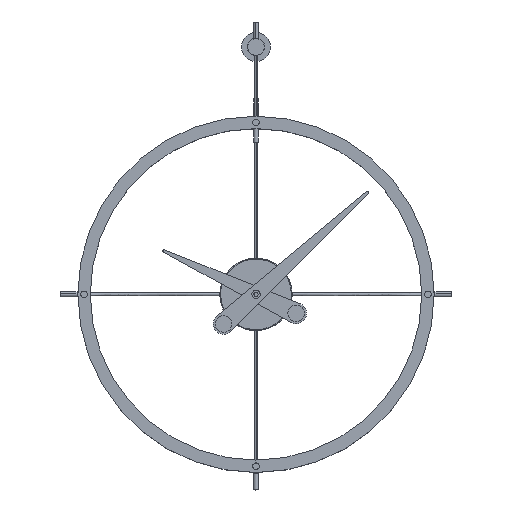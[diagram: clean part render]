
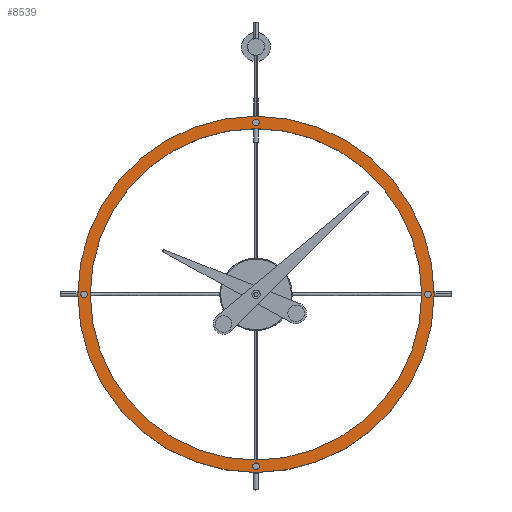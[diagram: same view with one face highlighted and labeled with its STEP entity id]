
A CAD part, top view. The second image highlights one B-rep face of the part: STEP entity #8539.
In plain terms, the highlighted planar face has unit normal (0, 0, 1).
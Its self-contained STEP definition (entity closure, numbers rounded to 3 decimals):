
#209 = EDGE_LOOP ( 'NONE', ( #840, #7336 ) ) ;
#403 = DIRECTION ( 'NONE',  ( 1., 0., 0. ) ) ;
#461 = ORIENTED_EDGE ( 'NONE', *, *, #9750, .F. ) ;
#583 = CARTESIAN_POINT ( 'NONE',  ( 209.5, 0., 0.6 ) ) ;
#596 = FACE_OUTER_BOUND ( 'NONE', #209, .T. ) ;
#754 = FACE_BOUND ( 'NONE', #3736, .T. ) ;
#840 = ORIENTED_EDGE ( 'NONE', *, *, #5532, .T. ) ;
#1252 = EDGE_CURVE ( 'NONE', #2732, #7615, #1564, .T. ) ;
#1347 = DIRECTION ( 'NONE',  ( 1., 0., 0. ) ) ;
#1367 = CARTESIAN_POINT ( 'NONE',  ( -215., 0., 0.6 ) ) ;
#1564 = CIRCLE ( 'NONE', #8371, 200. ) ;
#1570 = ORIENTED_EDGE ( 'NONE', *, *, #1252, .F. ) ;
#1580 = CIRCLE ( 'NONE', #10143, 200. ) ;
#1596 = DIRECTION ( 'NONE',  ( 0., 0., 1. ) ) ;
#1647 = EDGE_LOOP ( 'NONE', ( #10388, #5059 ) ) ;
#1700 = EDGE_CURVE ( 'NONE', #5785, #11051, #6710, .T. ) ;
#1723 = CARTESIAN_POINT ( 'NONE',  ( 205.5, 0., 0.6 ) ) ;
#1986 = DIRECTION ( 'NONE',  ( 0., 0., 1. ) ) ;
#2059 = ORIENTED_EDGE ( 'NONE', *, *, #3573, .F. ) ;
#2111 = ORIENTED_EDGE ( 'NONE', *, *, #1700, .F. ) ;
#2139 = DIRECTION ( 'NONE',  ( 1., 0., 0. ) ) ;
#2194 = AXIS2_PLACEMENT_3D ( 'NONE', #11082, #5706, #6485 ) ;
#2254 = CARTESIAN_POINT ( 'NONE',  ( 0., -207.5, 0.6 ) ) ;
#2277 = DIRECTION ( 'NONE',  ( 0., 0., 1. ) ) ;
#2347 = CARTESIAN_POINT ( 'NONE',  ( -209.5, 0., 0.6 ) ) ;
#2378 = EDGE_CURVE ( 'NONE', #5399, #11251, #9194, .T. ) ;
#2464 = AXIS2_PLACEMENT_3D ( 'NONE', #8672, #7036, #9568 ) ;
#2581 = FACE_BOUND ( 'NONE', #10379, .T. ) ;
#2663 = DIRECTION ( 'NONE',  ( 1., 0., 0. ) ) ;
#2666 = VERTEX_POINT ( 'NONE', #11102 ) ;
#2732 = VERTEX_POINT ( 'NONE', #9361 ) ;
#2961 = EDGE_CURVE ( 'NONE', #11051, #5785, #3343, .T. ) ;
#3114 = DIRECTION ( 'NONE',  ( 0., 0., 1. ) ) ;
#3254 = EDGE_LOOP ( 'NONE', ( #8472, #461 ) ) ;
#3343 = CIRCLE ( 'NONE', #6222, 2. ) ;
#3409 = CARTESIAN_POINT ( 'NONE',  ( 0., -207.5, 0.6 ) ) ;
#3550 = CARTESIAN_POINT ( 'NONE',  ( -205.5, 0., 0.6 ) ) ;
#3559 = AXIS2_PLACEMENT_3D ( 'NONE', #4502, #1986, #5411 ) ;
#3569 = ORIENTED_EDGE ( 'NONE', *, *, #6838, .F. ) ;
#3573 = EDGE_CURVE ( 'NONE', #2666, #5335, #7665, .T. ) ;
#3736 = EDGE_LOOP ( 'NONE', ( #1570, #6748 ) ) ;
#4026 = CIRCLE ( 'NONE', #3559, 215. ) ;
#4098 = FACE_BOUND ( 'NONE', #5382, .T. ) ;
#4137 = DIRECTION ( 'NONE',  ( 1., 0., 0. ) ) ;
#4502 = CARTESIAN_POINT ( 'NONE',  ( 0., 0., 0.6 ) ) ;
#4700 = CARTESIAN_POINT ( 'NONE',  ( 0., 0., 0.6 ) ) ;
#4769 = VERTEX_POINT ( 'NONE', #1723 ) ;
#4796 = CIRCLE ( 'NONE', #10762, 2. ) ;
#4805 = FACE_BOUND ( 'NONE', #3254, .T. ) ;
#4962 = DIRECTION ( 'NONE',  ( 0., 0., 1. ) ) ;
#4979 = DIRECTION ( 'NONE',  ( 0., 0., 1. ) ) ;
#5039 = CARTESIAN_POINT ( 'NONE',  ( 0., 0., 0.6 ) ) ;
#5059 = ORIENTED_EDGE ( 'NONE', *, *, #9179, .F. ) ;
#5184 = DIRECTION ( 'NONE',  ( 0., 0., 1. ) ) ;
#5335 = VERTEX_POINT ( 'NONE', #10544 ) ;
#5382 = EDGE_LOOP ( 'NONE', ( #2059, #3569 ) ) ;
#5399 = VERTEX_POINT ( 'NONE', #7899 ) ;
#5411 = DIRECTION ( 'NONE',  ( 1., 0., 0. ) ) ;
#5532 = EDGE_CURVE ( 'NONE', #11251, #5399, #4026, .T. ) ;
#5706 = DIRECTION ( 'NONE',  ( 0., 0., 1. ) ) ;
#5762 = CARTESIAN_POINT ( 'NONE',  ( 0., 207.5, 0.6 ) ) ;
#5785 = VERTEX_POINT ( 'NONE', #7709 ) ;
#6000 = DIRECTION ( 'NONE',  ( 1., 0., 0. ) ) ;
#6222 = AXIS2_PLACEMENT_3D ( 'NONE', #2254, #4979, #9352 ) ;
#6247 = CIRCLE ( 'NONE', #2464, 2. ) ;
#6374 = CIRCLE ( 'NONE', #8264, 2. ) ;
#6485 = DIRECTION ( 'NONE',  ( 1., 0., 0. ) ) ;
#6501 = EDGE_CURVE ( 'NONE', #10497, #7667, #6247, .T. ) ;
#6710 = CIRCLE ( 'NONE', #9115, 2. ) ;
#6718 = CARTESIAN_POINT ( 'NONE',  ( 207.5, 0., 0.6 ) ) ;
#6748 = ORIENTED_EDGE ( 'NONE', *, *, #9971, .F. ) ;
#6838 = EDGE_CURVE ( 'NONE', #5335, #2666, #6374, .T. ) ;
#6865 = DIRECTION ( 'NONE',  ( 0., 0., 1. ) ) ;
#7018 = CARTESIAN_POINT ( 'NONE',  ( 2., -207.5, 0.6 ) ) ;
#7036 = DIRECTION ( 'NONE',  ( 0., 0., 1. ) ) ;
#7243 = AXIS2_PLACEMENT_3D ( 'NONE', #6718, #7508, #403 ) ;
#7336 = ORIENTED_EDGE ( 'NONE', *, *, #2378, .T. ) ;
#7346 = AXIS2_PLACEMENT_3D ( 'NONE', #7607, #4962, #11177 ) ;
#7508 = DIRECTION ( 'NONE',  ( 0., 0., 1. ) ) ;
#7570 = DIRECTION ( 'NONE',  ( 0., 0., 1. ) ) ;
#7607 = CARTESIAN_POINT ( 'NONE',  ( 0., 207.5, 0.6 ) ) ;
#7615 = VERTEX_POINT ( 'NONE', #7838 ) ;
#7665 = CIRCLE ( 'NONE', #7346, 2. ) ;
#7667 = VERTEX_POINT ( 'NONE', #3550 ) ;
#7709 = CARTESIAN_POINT ( 'NONE',  ( -2., -207.5, 0.6 ) ) ;
#7838 = CARTESIAN_POINT ( 'NONE',  ( 200., 0., 0.6 ) ) ;
#7899 = CARTESIAN_POINT ( 'NONE',  ( 215., 0., 0.6 ) ) ;
#8264 = AXIS2_PLACEMENT_3D ( 'NONE', #5762, #3114, #1347 ) ;
#8371 = AXIS2_PLACEMENT_3D ( 'NONE', #4700, #10135, #2139 ) ;
#8472 = ORIENTED_EDGE ( 'NONE', *, *, #6501, .F. ) ;
#8493 = DIRECTION ( 'NONE',  ( 1., 0., 0. ) ) ;
#8539 = ADVANCED_FACE ( 'NONE', ( #2581, #4098, #596, #754, #9963, #4805 ), #10539, .T. ) ;
#8672 = CARTESIAN_POINT ( 'NONE',  ( -207.5, 0., 0.6 ) ) ;
#9115 = AXIS2_PLACEMENT_3D ( 'NONE', #3409, #6865, #4137 ) ;
#9164 = CARTESIAN_POINT ( 'NONE',  ( 0., 0., 0.6 ) ) ;
#9179 = EDGE_CURVE ( 'NONE', #10967, #4769, #9253, .T. ) ;
#9194 = CIRCLE ( 'NONE', #9875, 215. ) ;
#9253 = CIRCLE ( 'NONE', #7243, 2. ) ;
#9352 = DIRECTION ( 'NONE',  ( 1., 0., 0. ) ) ;
#9361 = CARTESIAN_POINT ( 'NONE',  ( -200., 0., 0.6 ) ) ;
#9395 = AXIS2_PLACEMENT_3D ( 'NONE', #9164, #7570, #2663 ) ;
#9568 = DIRECTION ( 'NONE',  ( 1., 0., 0. ) ) ;
#9750 = EDGE_CURVE ( 'NONE', #7667, #10497, #9952, .T. ) ;
#9875 = AXIS2_PLACEMENT_3D ( 'NONE', #10589, #1596, #10552 ) ;
#9952 = CIRCLE ( 'NONE', #2194, 2. ) ;
#9963 = FACE_BOUND ( 'NONE', #1647, .T. ) ;
#9971 = EDGE_CURVE ( 'NONE', #7615, #2732, #1580, .T. ) ;
#10049 = EDGE_CURVE ( 'NONE', #4769, #10967, #4796, .T. ) ;
#10135 = DIRECTION ( 'NONE',  ( 0., 0., 1. ) ) ;
#10143 = AXIS2_PLACEMENT_3D ( 'NONE', #5039, #2277, #8493 ) ;
#10379 = EDGE_LOOP ( 'NONE', ( #2111, #10416 ) ) ;
#10388 = ORIENTED_EDGE ( 'NONE', *, *, #10049, .F. ) ;
#10416 = ORIENTED_EDGE ( 'NONE', *, *, #2961, .F. ) ;
#10472 = CARTESIAN_POINT ( 'NONE',  ( 207.5, 0., 0.6 ) ) ;
#10497 = VERTEX_POINT ( 'NONE', #2347 ) ;
#10539 = PLANE ( 'NONE',  #9395 ) ;
#10544 = CARTESIAN_POINT ( 'NONE',  ( 2., 207.5, 0.6 ) ) ;
#10552 = DIRECTION ( 'NONE',  ( 1., 0., 0. ) ) ;
#10589 = CARTESIAN_POINT ( 'NONE',  ( 0., 0., 0.6 ) ) ;
#10762 = AXIS2_PLACEMENT_3D ( 'NONE', #10472, #5184, #6000 ) ;
#10967 = VERTEX_POINT ( 'NONE', #583 ) ;
#11051 = VERTEX_POINT ( 'NONE', #7018 ) ;
#11082 = CARTESIAN_POINT ( 'NONE',  ( -207.5, 0., 0.6 ) ) ;
#11102 = CARTESIAN_POINT ( 'NONE',  ( -2., 207.5, 0.6 ) ) ;
#11177 = DIRECTION ( 'NONE',  ( 1., 0., 0. ) ) ;
#11251 = VERTEX_POINT ( 'NONE', #1367 ) ;
